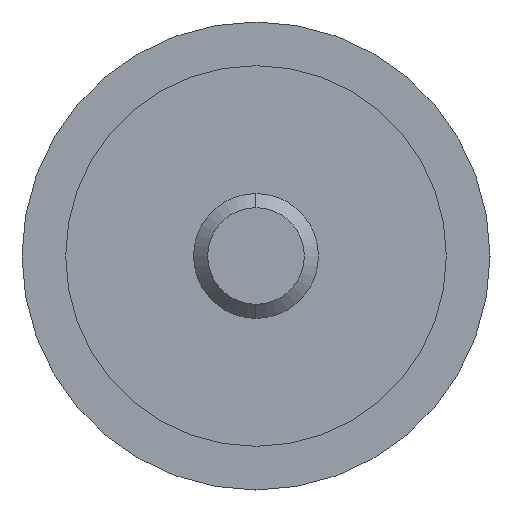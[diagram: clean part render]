
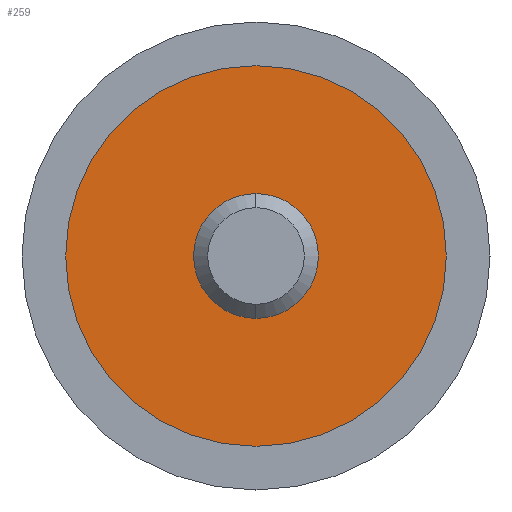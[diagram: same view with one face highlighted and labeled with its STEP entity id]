
A CAD part, left-side view. The second image highlights one B-rep face of the part: STEP entity #259.
In plain terms, the highlighted planar face has unit normal (-1, 0, 0).
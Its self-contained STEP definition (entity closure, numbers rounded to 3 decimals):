
#21 = EDGE_LOOP ( 'NONE', ( #241, #27 ) ) ;
#26 = DIRECTION ( 'NONE',  ( 0., 0., -1. ) ) ;
#27 = ORIENTED_EDGE ( 'NONE', *, *, #248, .T. ) ;
#31 = CARTESIAN_POINT ( 'NONE',  ( -12.49, 6.1, 0. ) ) ;
#42 = CIRCLE ( 'NONE', #651, 2. ) ;
#68 = VERTEX_POINT ( 'NONE', #194 ) ;
#131 = AXIS2_PLACEMENT_3D ( 'NONE', #442, #646, #26 ) ;
#133 = DIRECTION ( 'NONE',  ( -1., 0., 0. ) ) ;
#156 = EDGE_LOOP ( 'NONE', ( #597, #529 ) ) ;
#169 = DIRECTION ( 'NONE',  ( -1., 0., 0. ) ) ;
#194 = CARTESIAN_POINT ( 'NONE',  ( -12.49, 0., 6.1 ) ) ;
#216 = VERTEX_POINT ( 'NONE', #444 ) ;
#221 = CIRCLE ( 'NONE', #243, 6.1 ) ;
#224 = DIRECTION ( 'NONE',  ( 0., 0., -1. ) ) ;
#241 = ORIENTED_EDGE ( 'NONE', *, *, #502, .T. ) ;
#243 = AXIS2_PLACEMENT_3D ( 'NONE', #443, #488, #526 ) ;
#248 = EDGE_CURVE ( 'NONE', #285, #68, #437, .T. ) ;
#252 = EDGE_CURVE ( 'NONE', #272, #216, #425, .T. ) ;
#259 = ADVANCED_FACE ( 'NONE', ( #652, #390 ), #395, .F. ) ;
#272 = VERTEX_POINT ( 'NONE', #412 ) ;
#274 = DIRECTION ( 'NONE',  ( 0., 0., 1. ) ) ;
#285 = VERTEX_POINT ( 'NONE', #612 ) ;
#390 = FACE_BOUND ( 'NONE', #156, .T. ) ;
#395 = PLANE ( 'NONE',  #604 ) ;
#412 = CARTESIAN_POINT ( 'NONE',  ( -12.49, 0., 2. ) ) ;
#422 = CARTESIAN_POINT ( 'NONE',  ( -12.49, 0., 0. ) ) ;
#425 = CIRCLE ( 'NONE', #131, 2. ) ;
#437 = CIRCLE ( 'NONE', #663, 6.1 ) ;
#442 = CARTESIAN_POINT ( 'NONE',  ( -12.49, 0., 0. ) ) ;
#443 = CARTESIAN_POINT ( 'NONE',  ( -12.49, 0., 0. ) ) ;
#444 = CARTESIAN_POINT ( 'NONE',  ( -12.49, 0., -2. ) ) ;
#454 = CARTESIAN_POINT ( 'NONE',  ( -12.49, 0., 0. ) ) ;
#488 = DIRECTION ( 'NONE',  ( -1., 0., 0. ) ) ;
#502 = EDGE_CURVE ( 'NONE', #68, #285, #221, .T. ) ;
#526 = DIRECTION ( 'NONE',  ( 0., 0., 1. ) ) ;
#529 = ORIENTED_EDGE ( 'NONE', *, *, #549, .F. ) ;
#549 = EDGE_CURVE ( 'NONE', #216, #272, #42, .T. ) ;
#590 = DIRECTION ( 'NONE',  ( 1., 0., 0. ) ) ;
#597 = ORIENTED_EDGE ( 'NONE', *, *, #252, .F. ) ;
#604 = AXIS2_PLACEMENT_3D ( 'NONE', #31, #590, #224 ) ;
#612 = CARTESIAN_POINT ( 'NONE',  ( -12.49, 0., -6.1 ) ) ;
#646 = DIRECTION ( 'NONE',  ( -1., 0., 0. ) ) ;
#648 = DIRECTION ( 'NONE',  ( 0., 0., -1. ) ) ;
#651 = AXIS2_PLACEMENT_3D ( 'NONE', #422, #169, #648 ) ;
#652 = FACE_OUTER_BOUND ( 'NONE', #21, .T. ) ;
#663 = AXIS2_PLACEMENT_3D ( 'NONE', #454, #133, #274 ) ;
